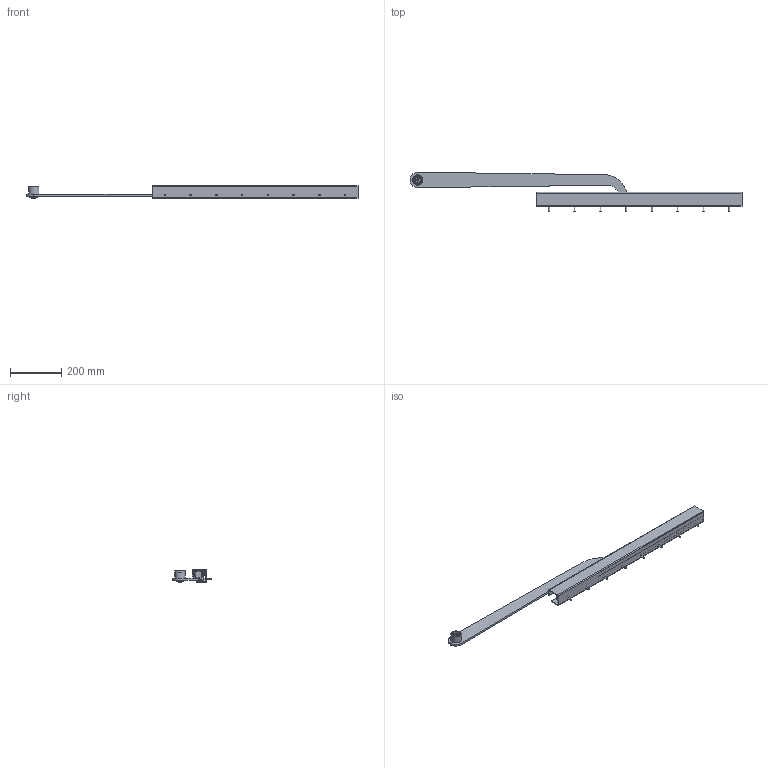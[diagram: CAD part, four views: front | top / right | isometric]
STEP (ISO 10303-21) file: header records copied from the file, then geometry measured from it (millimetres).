
FILE_DESCRIPTION(/* description */ ('Unknown'),/* implementation_level */ '2;1');
FILE_NAME(/* name */ '560BS',/* time_stamp */ '2024-01-30T08:23:04+01:00',/* author */ ('Unknown'),/* organization */ ('Unknown'),/* preprocessor_version */ 'ST-DEVELOPER v18.102',/* originating_system */ 'Solid Edge',/* authorisation */ 'Unknown');
FILE_SCHEMA (('CONFIG_CONTROL_DESIGN'));
Length unit declared in the file: millimetre
Products named in the file (12): 629110; 386362; 286362; 340340; 311290; 321971; 341050; 132213; 131505; 132303; 131403; 132204
Assembly tree (18 placements, depth 3):
  629110
    386362
      286362
      340340
    311290
    321971
    341050
    132213
    131505
    132303  x8
    131403
    132204
Bounding box: 1289.9 x 153.5 x 50 mm (x, y, z)
Volume: 915457.3 mm3; surface area: 434325.3 mm2
Topology: 17 solids, 17 shells, 628 faces, 1485 edges, 867 vertices
Faces by surface type: plane 208, cylinder 192, bspline 77, torus 70, sphere 42, cone 39
Full cylindrical faces by diameter (mm): 5.5 x8, 6.647 x1, 7 x8, 8 x1, 8.5 x2, 10.106 x1, 10.5 x1, 11 x8, 12 x2, 13 x1, 20 x1, 24 x1, 30 x2, 40 x1
Entity records: 14768 total; most frequent: CARTESIAN_POINT 3720, DIRECTION 2268, ORIENTED_EDGE 2128, EDGE_CURVE 1064, AXIS2_PLACEMENT_3D 919, VERTEX_POINT 640, EDGE_LOOP 534, FACE_BOUND 534
